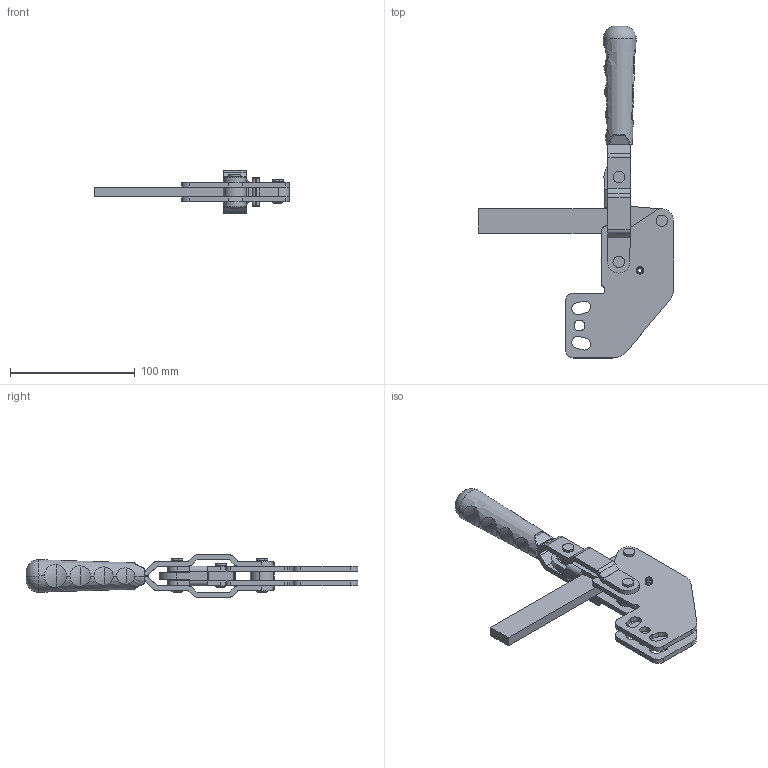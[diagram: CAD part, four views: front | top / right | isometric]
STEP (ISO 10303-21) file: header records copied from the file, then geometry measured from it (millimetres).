
FILE_DESCRIPTION (( 'STEP AP203' ), '1' );
FILE_NAME ('1105_P_L1.STEP', '2025-03-03T13:54:44', ( '' ), ( '' ), 'SwSTEP 2.0', 'SolidWorks 2025', '' );
FILE_SCHEMA (( 'CONFIG_CONTROL_DESIGN' ));
Length unit declared in the file: millimetre
Products named in the file (13): Ø6x24_YP(YARIKLI_PİM)_Varsayılan; 1105_P_L1; 1105_BK_L1(BASKI_KOLU_LAMA1); C95_T(YENİ_TUTAMAK)_Varsayılan; Ø6x27,5_P(PERÇİN)_Varsayılan; Ø10xØ6x8_B(BURÇ)_Varsayılan; Mirror1105_HK(HAREKET_KOLU)_Varsayılan; 1105_P_GÖVDE_2022; Ø10xØ6x16_B(BURÇ)_Varsayılan; Ø18,5xØ10,5x8_LY(LAZER_YÜZÜK)_Varsayılan; 1105_HK(HAREKET_KOLU)_Varsayılan; 1105_M(MAFSAL)_Varsayılan; Ø6x19,5_P(PERÇİN)_Varsayılan
Assembly tree (17 placements, depth 2):
  1105_P_L1
    1105_BK_L1(BASKI_KOLU_LAMA1)
    Ø10xØ6x8_B(BURÇ)_Varsayılan  x2
    Ø10xØ6x16_B(BURÇ)_Varsayılan  x2
    Ø18,5xØ10,5x8_LY(LAZER_YÜZÜK)_Varsayılan
    1105_M(MAFSAL)_Varsayılan
    1105_HK(HAREKET_KOLU)_Varsayılan
    Mirror1105_HK(HAREKET_KOLU)_Varsayılan
    Ø6x27,5_P(PERÇİN)_Varsayılan  x2
    Ø6x19,5_P(PERÇİN)_Varsayılan  x2
    Ø6x24_YP(YARIKLI_PİM)_Varsayılan
    C95_T(YENİ_TUTAMAK)_Varsayılan
    1105_P_GÖVDE_2022  x2
Bounding box: 156.5 x 266.18 x 34 mm (x, y, z)
Volume: 146066 mm3; surface area: 80013.8 mm2
Topology: 17 solids, 17 shells, 911 faces, 2334 edges, 1518 vertices
Faces by surface type: plane 605, cylinder 220, cone 40, torus 36, bspline 8, sphere 2
Entity records: 21117 total; most frequent: CARTESIAN_POINT 4177, DIRECTION 3246, ORIENTED_EDGE 3186, EDGE_CURVE 1593, LINE 1084, VECTOR 1084, AXIS2_PLACEMENT_3D 1081, VERTEX_POINT 1040
